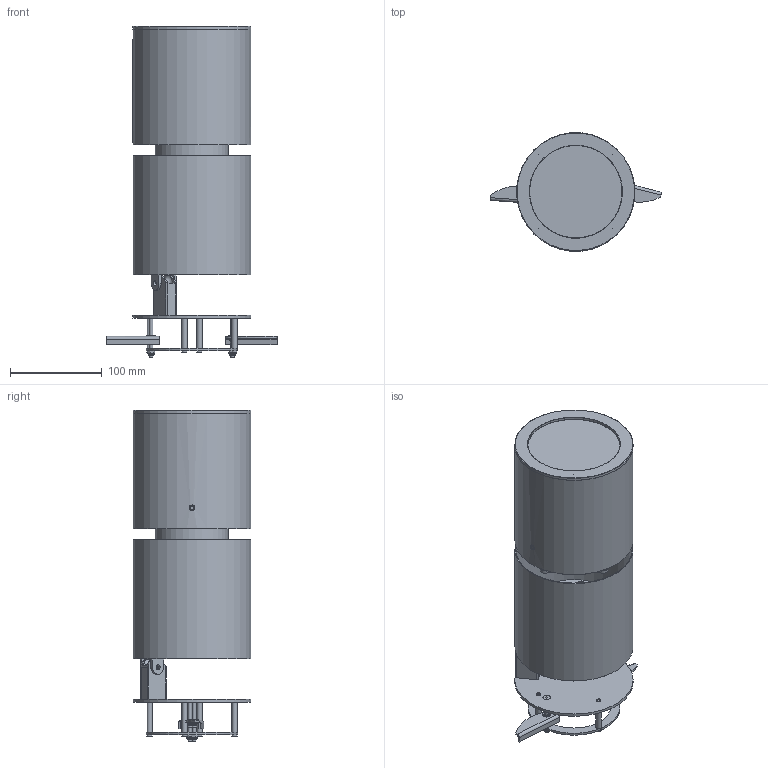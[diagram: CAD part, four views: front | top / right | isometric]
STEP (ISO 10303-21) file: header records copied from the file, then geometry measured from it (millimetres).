
FILE_DESCRIPTION(/* description */ ('Unknown'),/* implementation_level */ '2;1');
FILE_NAME(/* name */ 'Ambiane MP111 Surface Mount Tilt',/* time_stamp */ '2024-08-29T09:50:35+02:00',/* author */ ('Unknown'),/* organization */ ('Unknown'),/* preprocessor_version */ 'ST-DEVELOPER v19.4',/* originating_system */ 'Solid Edge',/* authorisation */ 'Unknown');
FILE_SCHEMA (('AUTOMOTIVE_DESIGN {1 0 10303 214 3 1 1}'));
Length unit declared in the file: millimetre
Products named in the file (40): Ambiane MP111 Surface Mount Tilt; 11431203 Kryt chladièe MP SFMT; 11019204 Kryt chladièe; 11019471 Deska krytu MP SFMT; SFM Tilt Z嫛鮀; 18010054 Šroub kø. pulkul. M3x10; 17442531 rameno aretace ; 11018353 packa; 18040015 Matice zálisná M4 AVDEL; 18540020 Matice samosvorná M4; 12010400 Distance D6xL33 M3; 18710363 Šroub záp, s vnitø, šestihr, M 4x45 A2 BLACK; 11418355 kruh; 17443012 sfmt deska - liosování; 18060209 Lisovací šroub M3x10; 11019554 Deska sfmt; 12452000 Rameno 30st WMT; 18010032 Šr.køíž.zápustný M3x8; 17442530 nosník; 11018360 nosník; 17442539 Kryt reflektoru 20st -lisování; 11018372 Kryt reflektoru 20st; 18540096 Matice M4 nízká; 18050003 Podložka pérová 4; 18060306 Lisovací šroub GS4-A-12; 19430536 Front Part; 17442529 kryt - lisování; 11031098 kryt; 11018351 deska krytu; 12051729 trubka krytu; 17042979 Deska SFMT; 18060281 Lisovací šroubový èep FH M4x12; 11019470 Deska chladièe SFMT; 14060984 Sklo D107 tl.3mm; 11431204 Z嫛鮀 MP; 17043013 Oko lisování; 18040002 Matice zálisná M5; 11019557 Deska 3; 11019556 Deska 2; 11019473 Deska z嫛鮀u MP
Assembly tree (67 placements, depth 4):
  Ambiane MP111 Surface Mount Tilt
    11431203 Kryt chladièe MP SFMT
      11019204 Kryt chladièe
      11019471 Deska krytu MP SFMT
    SFM Tilt Z嫛鮀
      18010054 Šroub kø. pulkul. M3x10  x4
      17442531 rameno aretace   x2
        11018353 packa
        18040015 Matice zálisná M4 AVDEL
      18540020 Matice samosvorná M4  x2
      12010400 Distance D6xL33 M3  x4
      18710363 Šroub záp, s vnitø, šestihr, M 4x45 A2 BLACK  x2
      11418355 kruh
      17443012 sfmt deska - liosování
        18060209 Lisovací šroub M3x10  x4
        11019554 Deska sfmt
      12452000 Rameno 30st WMT
      18010032 Šr.køíž.zápustný M3x8  x2
    17442530 nosník
      18060209 Lisovací šroub M3x10  x4
      11018360 nosník
    17442539 Kryt reflektoru 20st -lisování
      11018372 Kryt reflektoru 20st
      18540096 Matice M4 nízká  x2
      18050003 Podložka pérová 4  x2
      18060306 Lisovací šroub GS4-A-12  x2
    19430536 Front Part
    17442529 kryt - lisování
      18060209 Lisovací šroub M3x10  x4
      11031098 kryt
        11018351 deska krytu
        12051729 trubka krytu
    17042979 Deska SFMT
      18060281 Lisovací šroubový èep FH M4x12  x5
      11019470 Deska chladièe SFMT
    14060984 Sklo D107 tl.3mm
    11431204 Z嫛鮀 MP
      17043013 Oko lisování
        18040002 Matice zálisná M5
        11019557 Deska 3
      11019556 Deska 2
      11019473 Deska z嫛鮀u MP
Bounding box: 186.45 x 128.52 x 360.9 mm (x, y, z)
Volume: 276527.7 mm3; surface area: 362976.9 mm2
Topology: 57 solids, 57 shells, 1103 faces, 2630 edges, 1685 vertices
Faces by surface type: plane 473, cylinder 336, cone 130, bspline 83, torus 69, sphere 12
Full cylindrical faces by diameter (mm): 2.459 x2, 2.5 x4, 3 x18, 3.1 x4, 3.15 x4, 3.2 x12, 3.242 x8, 3.3 x2, 3.6 x2, 3.7 x4, 4 x20, 4.1 x5, 4.2 x3, 4.3 x7, 4.5 x2, 5 x12, 5.2 x1, 5.3 x1, 5.5 x4, 5.6 x4, 5.9 x7, 6 x8, 6.1 x2, 6.4 x1, 6.5 x1, 6.55 x2, 7.1 x2, 8 x4, 8.8 x2, 9 x4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
Entity records: 27370 total; most frequent: CARTESIAN_POINT 7857, DIRECTION 3862, ORIENTED_EDGE 3550, EDGE_CURVE 1775, AXIS2_PLACEMENT_3D 1528, VERTEX_POINT 1238, FACE_BOUND 1155, EDGE_LOOP 1149
